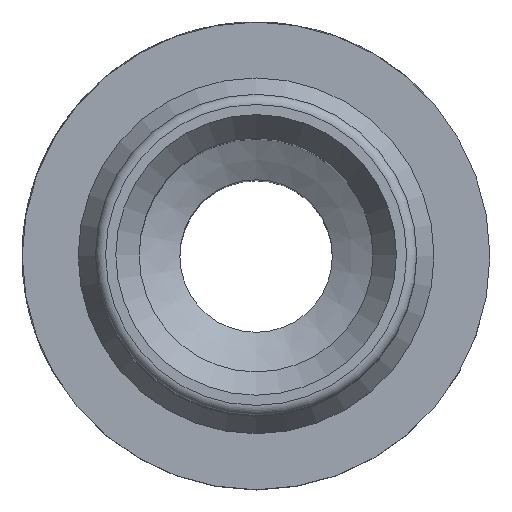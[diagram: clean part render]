
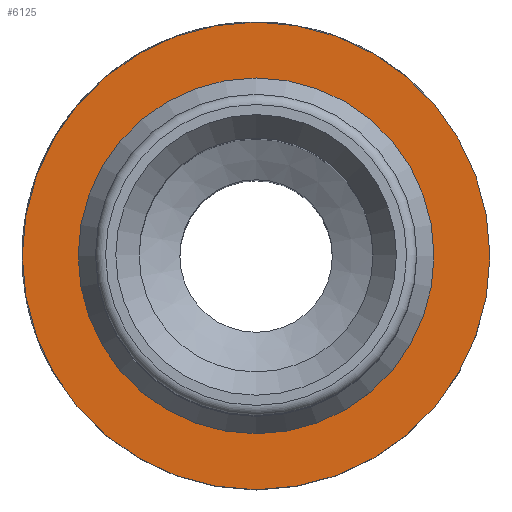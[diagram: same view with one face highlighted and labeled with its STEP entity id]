
A CAD part, top view. The second image highlights one B-rep face of the part: STEP entity #6125.
In plain terms, the highlighted planar face has unit normal (0, 0, 1).
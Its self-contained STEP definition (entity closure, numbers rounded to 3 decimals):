
#73=FACE_BOUND('',#1663,.T.);
#151=PLANE('',#6497);
#1294=FACE_OUTER_BOUND('',#1662,.T.);
#1662=EDGE_LOOP('',(#5626,#5627));
#1663=EDGE_LOOP('',(#5628,#5629));
#1765=CIRCLE('',#6310,11.5);
#1766=CIRCLE('',#6311,11.5);
#1893=CIRCLE('',#6495,8.3);
#1894=CIRCLE('',#6496,8.3);
#2785=VERTEX_POINT('',#13411);
#2786=VERTEX_POINT('',#13413);
#2905=VERTEX_POINT('',#13747);
#2906=VERTEX_POINT('',#13748);
#3666=EDGE_CURVE('',#2785,#2786,#1765,.T.);
#3667=EDGE_CURVE('',#2786,#2785,#1766,.T.);
#3824=EDGE_CURVE('',#2905,#2906,#1893,.T.);
#3825=EDGE_CURVE('',#2906,#2905,#1894,.T.);
#5626=ORIENTED_EDGE('',*,*,#3667,.F.);
#5627=ORIENTED_EDGE('',*,*,#3666,.F.);
#5628=ORIENTED_EDGE('',*,*,#3824,.T.);
#5629=ORIENTED_EDGE('',*,*,#3825,.T.);
#6125=ADVANCED_FACE('',(#1294,#73),#151,.T.);
#6310=AXIS2_PLACEMENT_3D('',#13414,#7127,#7128);
#6311=AXIS2_PLACEMENT_3D('',#13415,#7129,#7130);
#6495=AXIS2_PLACEMENT_3D('',#13749,#7527,#7528);
#6496=AXIS2_PLACEMENT_3D('',#13750,#7529,#7530);
#6497=AXIS2_PLACEMENT_3D('',#13752,#7532,#7533);
#7127=DIRECTION('center_axis',(0.,0.,-1.));
#7128=DIRECTION('ref_axis',(1.,0.,0.));
#7129=DIRECTION('center_axis',(0.,0.,-1.));
#7130=DIRECTION('ref_axis',(1.,0.,0.));
#7527=DIRECTION('center_axis',(0.,0.,-1.));
#7528=DIRECTION('ref_axis',(1.,0.,0.));
#7529=DIRECTION('center_axis',(0.,0.,-1.));
#7530=DIRECTION('ref_axis',(1.,0.,0.));
#7532=DIRECTION('center_axis',(0.,0.,1.));
#7533=DIRECTION('ref_axis',(1.,0.,0.));
#13411=CARTESIAN_POINT('',(0.,-11.5,35.));
#13413=CARTESIAN_POINT('',(0.,11.5,35.));
#13414=CARTESIAN_POINT('Origin',(0.,0.,35.));
#13415=CARTESIAN_POINT('Origin',(0.,0.,35.));
#13747=CARTESIAN_POINT('',(0.,8.3,35.));
#13748=CARTESIAN_POINT('',(0.,-8.3,35.));
#13749=CARTESIAN_POINT('Origin',(0.,0.,35.));
#13750=CARTESIAN_POINT('Origin',(0.,0.,35.));
#13752=CARTESIAN_POINT('Origin',(0.,11.5,35.));
